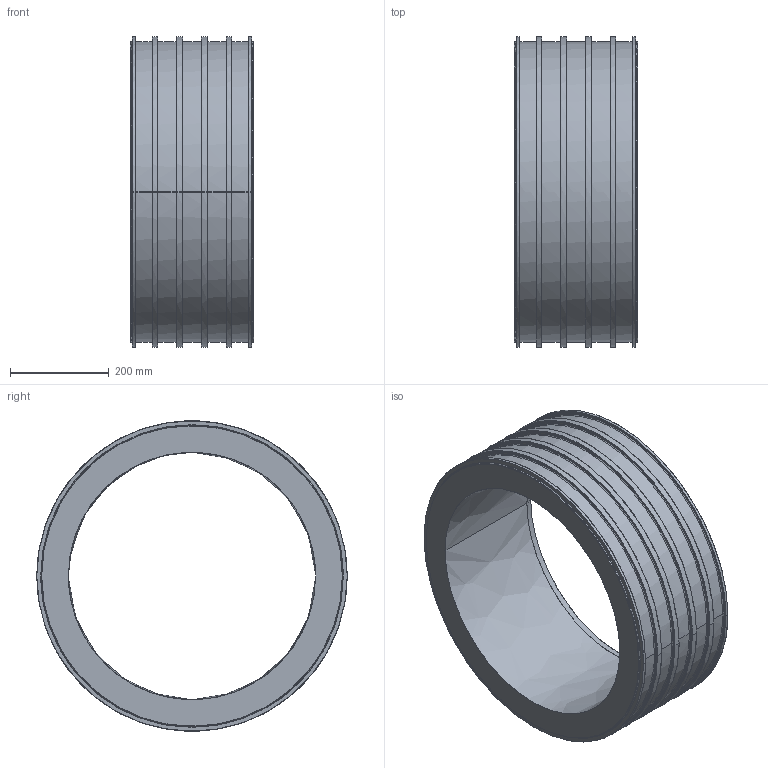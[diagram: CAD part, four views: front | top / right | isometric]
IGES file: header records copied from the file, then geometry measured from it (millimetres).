
Start section:  PTC IGES file: asfl_d450.igs
Global section: file name: asfl_d450.igs; native system: Pro/ENGINEER by Parametric Technology Corporation; preprocessor: 2011490; author: mtunjic; organization: Unknown; date: 20130730.084001; units: millimetre
Bounding box: 250 x 630 x 630 mm (x, y, z)
Surface area: 1364552.6 mm2 (no closed solid volume)
Topology: 0 solids, 0 shells, 138 faces, 552 edges, 552 vertices
Faces by surface type: bspline 138
